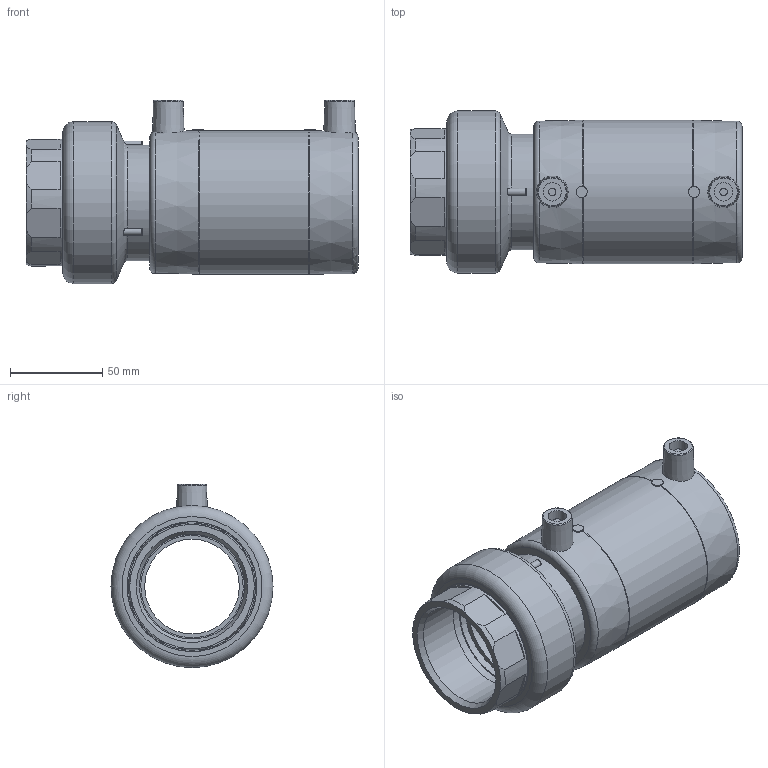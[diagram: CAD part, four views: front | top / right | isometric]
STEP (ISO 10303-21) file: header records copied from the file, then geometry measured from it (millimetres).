
FILE_DESCRIPTION(/* description */ ('Unknown'),/* implementation_level */ '2;1');
FILE_NAME(/* name */ 'MTFP063C',/* time_stamp */ '2021-03-02T09:36:29+01:00',/* author */ ('Unknown'),/* organization */ ('Unknown'),/* preprocessor_version */ 'ST-DEVELOPER v16.7',/* originating_system */ 'Solid Edge',/* authorisation */ 'Unknown');
FILE_SCHEMA (('AUTOMOTIVE_DESIGN {1 0 10303 214 3 1 1}'));
Length unit declared in the file: millimetre
Products named in the file (5): MTFP063C; MP063C; RTOFP063C; Parte PE 063; IOF063C
Assembly tree (4 placements, depth 3):
  MTFP063C
    MP063C
    RTOFP063C
      Parte PE 063
      IOF063C
Bounding box: 180.25 x 88 x 99.5 mm (x, y, z)
Volume: 400598.1 mm3; surface area: 133946.2 mm2
Topology: 3 solids, 3 shells, 360 faces, 955 edges, 623 vertices
Faces by surface type: bspline 111, plane 108, cone 69, cylinder 44, torus 28
Full cylindrical faces by diameter (mm): 4 x2, 6 x2, 10 x2, 51.4 x1, 55.6 x3, 57 x2, 60 x2, 60.2 x2, 63 x2, 67 x2, 69 x3, 74 x6, 78 x1, 88 x1
Entity records: 13945 total; most frequent: CARTESIAN_POINT 5396, ORIENTED_EDGE 1732, DIRECTION 1144, EDGE_CURVE 866, VERTEX_POINT 596, AXIS2_PLACEMENT_3D 514, B_SPLINE_CURVE_WITH_KNOTS 490, EDGE_LOOP 450
